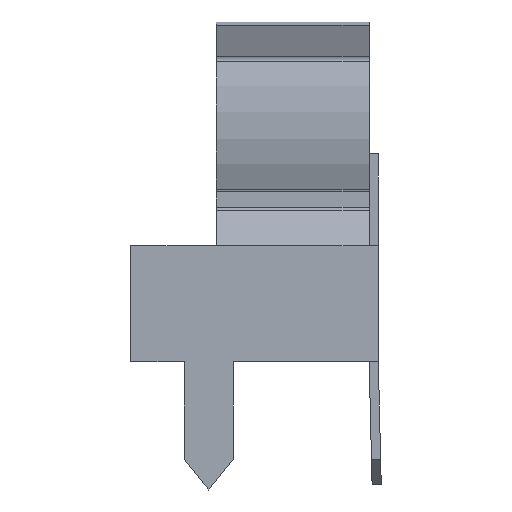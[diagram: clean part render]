
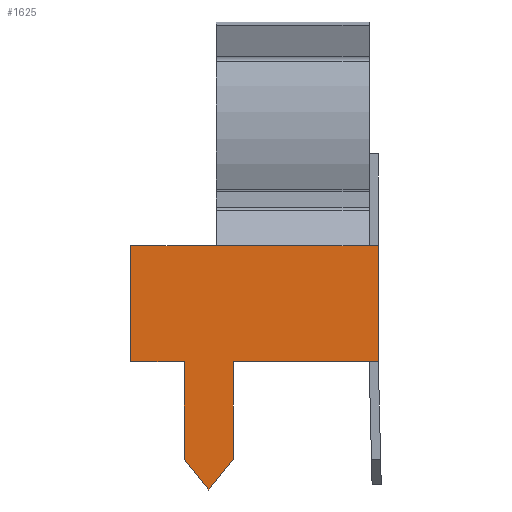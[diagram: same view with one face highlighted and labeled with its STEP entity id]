
A CAD part, left-side view. The second image highlights one B-rep face of the part: STEP entity #1625.
In plain terms, the highlighted planar face has unit normal (-1, 0, 0).
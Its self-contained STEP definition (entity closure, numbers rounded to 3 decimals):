
#91 = DIRECTION ( 'NONE',  ( 0., 0., 1. ) ) ;
#92 = LINE ( 'NONE', #95, #498 ) ;
#95 = CARTESIAN_POINT ( 'NONE',  ( -2.65, 0., 5.5 ) ) ;
#116 = CARTESIAN_POINT ( 'NONE',  ( -2.65, 5.3, 2.5 ) ) ;
#136 = LINE ( 'NONE', #116, #822 ) ;
#141 = CARTESIAN_POINT ( 'NONE',  ( -2.65, 6.35, -1.3 ) ) ;
#152 = DIRECTION ( 'NONE',  ( 0., -1., 0. ) ) ;
#157 = LINE ( 'NONE', #141, #824 ) ;
#162 = DIRECTION ( 'NONE',  ( 0., 1., 0. ) ) ;
#169 = LINE ( 'NONE', #253, #821 ) ;
#170 = LINE ( 'NONE', #173, #825 ) ;
#171 = DIRECTION ( 'NONE',  ( 0., 0., 1. ) ) ;
#173 = CARTESIAN_POINT ( 'NONE',  ( -2.65, 6.35, -1.3 ) ) ;
#204 = DIRECTION ( 'NONE',  ( 0., 1., 0. ) ) ;
#218 = DIRECTION ( 'NONE',  ( 0., 1., 0. ) ) ;
#235 = CARTESIAN_POINT ( 'NONE',  ( -2.65, -0.1, -1.3 ) ) ;
#246 = CARTESIAN_POINT ( 'NONE',  ( -2.65, 8.1, 2.5 ) ) ;
#248 = CARTESIAN_POINT ( 'NONE',  ( -2.65, 5.55, -5.5 ) ) ;
#253 = CARTESIAN_POINT ( 'NONE',  ( -2.65, -0.1, 2.5 ) ) ;
#283 = DIRECTION ( 'NONE',  ( 0., 0.625, -0.781 ) ) ;
#285 = LINE ( 'NONE', #248, #827 ) ;
#297 = CARTESIAN_POINT ( 'NONE',  ( -2.65, 4.75, -4.5 ) ) ;
#304 = LINE ( 'NONE', #235, #820 ) ;
#305 = LINE ( 'NONE', #246, #823 ) ;
#306 = DIRECTION ( 'NONE',  ( 0., 0.625, 0.781 ) ) ;
#308 = CARTESIAN_POINT ( 'NONE',  ( -2.65, 6.35, -4.5 ) ) ;
#309 = LINE ( 'NONE', #308, #826 ) ;
#316 = LINE ( 'NONE', #297, #829 ) ;
#323 = DIRECTION ( 'NONE',  ( 0., 0., 1. ) ) ;
#333 = DIRECTION ( 'NONE',  ( 0., 0., -1. ) ) ;
#408 = EDGE_LOOP ( 'NONE', ( #2442, #2298, #2326, #2447, #2328, #2418, #2269, #2213, #2287, #2330, #2434 ) ) ;
#467 = VERTEX_POINT ( 'NONE', #1124 ) ;
#470 = AXIS2_PLACEMENT_3D ( 'NONE', #1092, #1295, #1098 ) ;
#472 = FACE_OUTER_BOUND ( 'NONE', #408, .T. ) ;
#498 = VECTOR ( 'NONE', #91, 1000. ) ;
#820 = VECTOR ( 'NONE', #204, 1000. ) ;
#821 = VECTOR ( 'NONE', #162, 1000. ) ;
#822 = VECTOR ( 'NONE', #152, 1000. ) ;
#823 = VECTOR ( 'NONE', #323, 1000. ) ;
#824 = VECTOR ( 'NONE', #218, 1000. ) ;
#825 = VECTOR ( 'NONE', #171, 1000. ) ;
#826 = VECTOR ( 'NONE', #306, 1000. ) ;
#827 = VECTOR ( 'NONE', #283, 1000. ) ;
#829 = VECTOR ( 'NONE', #333, 1000. ) ;
#1092 = CARTESIAN_POINT ( 'NONE',  ( -2.65, 0.3, 5.5 ) ) ;
#1094 = PLANE ( 'NONE',  #470 ) ;
#1098 = DIRECTION ( 'NONE',  ( 0., 0., -1. ) ) ;
#1124 = CARTESIAN_POINT ( 'NONE',  ( -2.65, 6.35, -4.5 ) ) ;
#1130 = LINE ( 'NONE', #1203, #1436 ) ;
#1178 = DIRECTION ( 'NONE',  ( 0., 1., 0. ) ) ;
#1203 = CARTESIAN_POINT ( 'NONE',  ( -2.65, -0.1, 2.5 ) ) ;
#1295 = DIRECTION ( 'NONE',  ( 1., 0., 0. ) ) ;
#1327 = CARTESIAN_POINT ( 'NONE',  ( -2.65, 4.75, -1.3 ) ) ;
#1333 = CARTESIAN_POINT ( 'NONE',  ( -2.65, 5.3, 2.5 ) ) ;
#1341 = CARTESIAN_POINT ( 'NONE',  ( -2.65, 0., -1.3 ) ) ;
#1349 = CARTESIAN_POINT ( 'NONE',  ( -2.65, 8.1, 2.5 ) ) ;
#1351 = CARTESIAN_POINT ( 'NONE',  ( -2.65, 8.1, -1.3 ) ) ;
#1380 = CARTESIAN_POINT ( 'NONE',  ( -2.65, 5.55, -5.5 ) ) ;
#1382 = CARTESIAN_POINT ( 'NONE',  ( -2.65, 6.35, -1.3 ) ) ;
#1383 = CARTESIAN_POINT ( 'NONE',  ( -2.65, 0., 2.5 ) ) ;
#1389 = CARTESIAN_POINT ( 'NONE',  ( -2.65, 0.3, 2.5 ) ) ;
#1413 = CARTESIAN_POINT ( 'NONE',  ( -2.65, 4.75, -4.5 ) ) ;
#1436 = VECTOR ( 'NONE', #1178, 1000. ) ;
#1612 = EDGE_CURVE ( 'NONE', #2439, #2270, #1130, .T. ) ;
#1625 = ADVANCED_FACE ( 'NONE', ( #472 ), #1094, .F. ) ;
#1705 = EDGE_CURVE ( 'NONE', #2278, #2274, #92, .T. ) ;
#1706 = EDGE_CURVE ( 'NONE', #2278, #2273, #304, .T. ) ;
#1707 = EDGE_CURVE ( 'NONE', #2274, #2275, #169, .T. ) ;
#1708 = EDGE_CURVE ( 'NONE', #2439, #2275, #136, .T. ) ;
#1709 = EDGE_CURVE ( 'NONE', #2276, #2270, #305, .T. ) ;
#1710 = EDGE_CURVE ( 'NONE', #2277, #2276, #157, .T. ) ;
#1711 = EDGE_CURVE ( 'NONE', #467, #2277, #170, .T. ) ;
#1712 = EDGE_CURVE ( 'NONE', #2386, #467, #309, .T. ) ;
#1713 = EDGE_CURVE ( 'NONE', #2337, #2386, #285, .T. ) ;
#1714 = EDGE_CURVE ( 'NONE', #2273, #2337, #316, .T. ) ;
#2213 = ORIENTED_EDGE ( 'NONE', *, *, #1711, .F. ) ;
#2269 = ORIENTED_EDGE ( 'NONE', *, *, #1710, .F. ) ;
#2270 = VERTEX_POINT ( 'NONE', #1349 ) ;
#2273 = VERTEX_POINT ( 'NONE', #1327 ) ;
#2274 = VERTEX_POINT ( 'NONE', #1383 ) ;
#2275 = VERTEX_POINT ( 'NONE', #1389 ) ;
#2276 = VERTEX_POINT ( 'NONE', #1351 ) ;
#2277 = VERTEX_POINT ( 'NONE', #1382 ) ;
#2278 = VERTEX_POINT ( 'NONE', #1341 ) ;
#2287 = ORIENTED_EDGE ( 'NONE', *, *, #1712, .F. ) ;
#2298 = ORIENTED_EDGE ( 'NONE', *, *, #1705, .T. ) ;
#2326 = ORIENTED_EDGE ( 'NONE', *, *, #1707, .T. ) ;
#2328 = ORIENTED_EDGE ( 'NONE', *, *, #1612, .T. ) ;
#2330 = ORIENTED_EDGE ( 'NONE', *, *, #1713, .F. ) ;
#2337 = VERTEX_POINT ( 'NONE', #1413 ) ;
#2386 = VERTEX_POINT ( 'NONE', #1380 ) ;
#2418 = ORIENTED_EDGE ( 'NONE', *, *, #1709, .F. ) ;
#2434 = ORIENTED_EDGE ( 'NONE', *, *, #1714, .F. ) ;
#2439 = VERTEX_POINT ( 'NONE', #1333 ) ;
#2442 = ORIENTED_EDGE ( 'NONE', *, *, #1706, .F. ) ;
#2447 = ORIENTED_EDGE ( 'NONE', *, *, #1708, .F. ) ;
